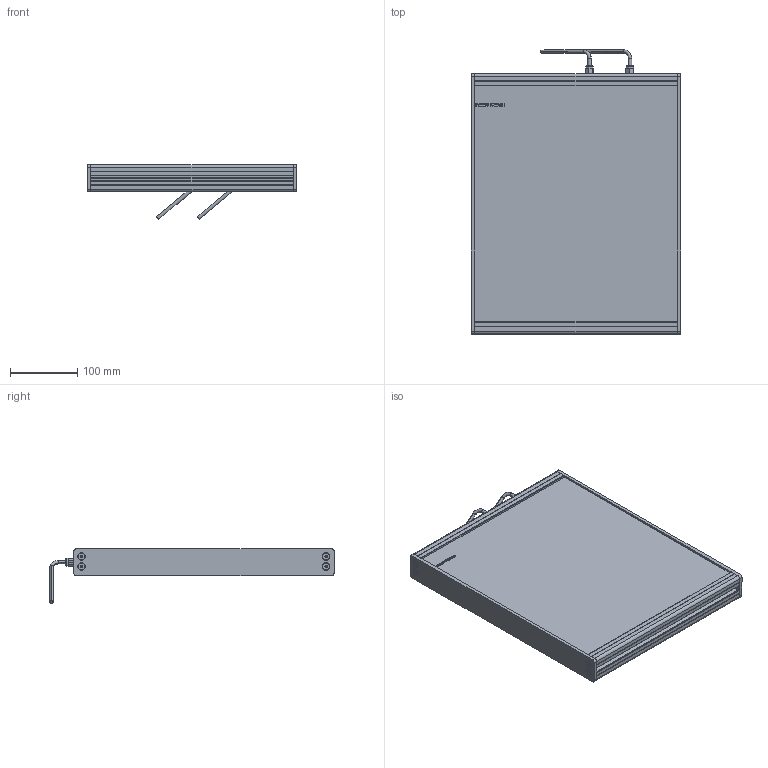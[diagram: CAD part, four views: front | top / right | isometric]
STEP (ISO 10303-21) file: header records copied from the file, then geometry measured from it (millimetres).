
FILE_DESCRIPTION (( 'STEP AP214' ), '1' );
FILE_NAME ('EFFI-BL-300T-350-2M12.STEP', '2021-06-28T09:19:45', ( '' ), ( '' ), 'SwSTEP 2.0', 'SolidWorks 2021', '' );
FILE_SCHEMA (( 'AUTOMOTIVE_DESIGN' ));
Length unit declared in the file: millimetre
Products named in the file (7): profile modif_lg 99.5 mm; 003776; bord fin modif_lg 436.5 mm; EFFI-BL-300T-350-2M12; Pièce2^EFFI-BL-XXXT-YYY + 2 M12; cordon_Avec cable
Assembly tree (15 placements, depth 2):
  EFFI-BL-300T-350-2M12
    profile modif_lg 99.5 mm
    bord fin modif_lg 436.5 mm  x2
    Pièce2^EFFI-BL-XXXT-YYY + 2 M12
    profile modif_lg 99.5 mm
    003776  x8
    cordon_Avec cable  x2
Bounding box: 310 x 421.15 x 80.73 mm (x, y, z)
Volume: 4140774.1 mm3; surface area: 424251.2 mm2
Topology: 13 solids, 25 shells, 669 faces, 1688 edges, 1082 vertices
Faces by surface type: plane 376, bspline 137, cylinder 116, cone 20, torus 20
Entity records: 16397 total; most frequent: CARTESIAN_POINT 5293, ORIENTED_EDGE 2162, DIRECTION 1887, EDGE_CURVE 1085, LINE 793, VECTOR 793, VERTEX_POINT 715, AXIS2_PLACEMENT_3D 547
